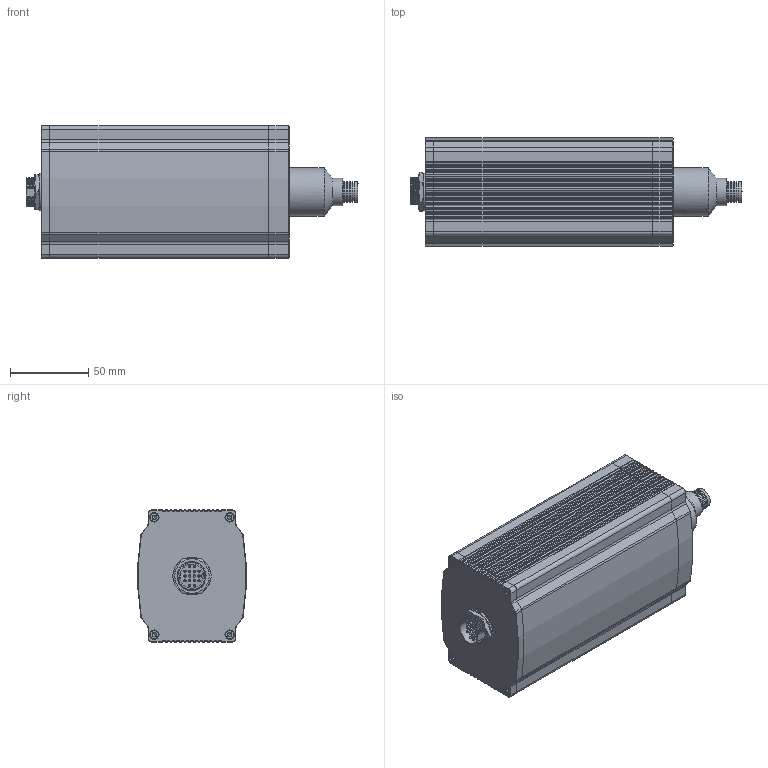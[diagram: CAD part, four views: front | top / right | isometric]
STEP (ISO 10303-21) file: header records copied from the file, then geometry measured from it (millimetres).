
FILE_DESCRIPTION(/* description */ (''),/* implementation_level */ '2;1');
FILE_NAME(/* name */ 'FI1040DC-HE.stp',/* time_stamp */ '2023-09-21T17:58:23+08:00',/* author */ (''),/* organization */ (''),/* preprocessor_version */ 'ST-DEVELOPER v16.7',/* originating_system */ 'SIEMENS PLM Software NX 12.0',/* authorisation */ '');
FILE_SCHEMA (('AUTOMOTIVE_DESIGN { 1 0 10303 214 3 1 1 1 }'));
Length unit declared in the file: millimetre
Products named in the file (1): Admi71E0876Fbrcn
Bounding box: 212.32 x 69.16 x 84.5 mm (x, y, z)
Volume: 504919.5 mm3; surface area: 158191.4 mm2
Topology: 19 solids, 22 shells, 1492 faces, 3783 edges, 2387 vertices
Faces by surface type: plane 487, cylinder 439, bspline 181, extrusion 142, cone 138, torus 65, sphere 40
Full cylindrical faces by diameter (mm): 1.5 x16, 3 x8, 3.2 x8, 4.2 x6, 4.826 x4, 5 x1, 5.5 x4, 5.86 x8, 6 x8, 8 x1, 8.5 x4, 9 x2, 9.1 x2, 10.2 x1, 10.5 x1, 12 x4, 13 x5, 14 x2, 15.4 x1, 16.2 x1, 16.8 x1, 17.5 x1, 18 x2, 19 x1, 22.6 x1, 24 x1, 24.2 x1, 31 x1, 31.1 x1, 50 x1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
Entity records: 82239 total; most frequent: CARTESIAN_POINT 49773, ORIENTED_EDGE 6854, DIRECTION 5831, EDGE_CURVE 3431, AXIS2_PLACEMENT_3D 2228, VERTEX_POINT 2227, EDGE_LOOP 1768, ADVANCED_FACE 1492
